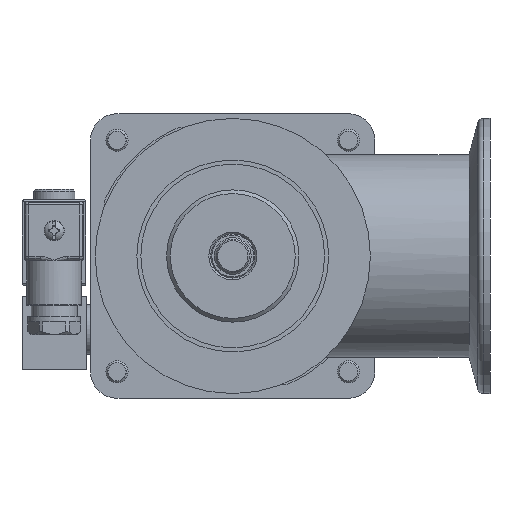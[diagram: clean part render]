
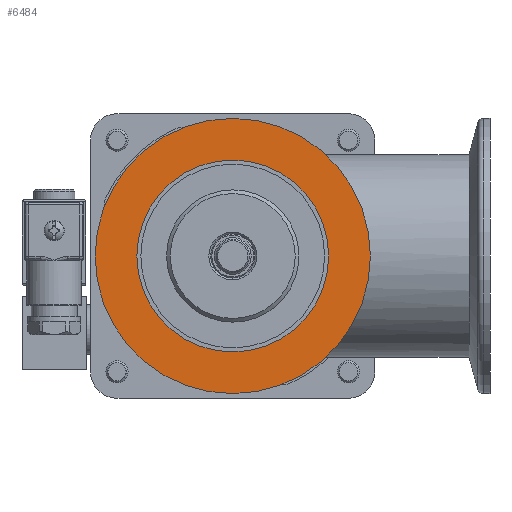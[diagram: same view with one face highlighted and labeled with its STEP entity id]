
A CAD part, front view. The second image highlights one B-rep face of the part: STEP entity #6484.
In plain terms, the highlighted planar face has unit normal (0, -1, 0) as drawn and (-1, 0, 0) by its records, which use the part's own axes.
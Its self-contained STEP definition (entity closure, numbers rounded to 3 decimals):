
#6033=PLANE('',#15791);
#6484=ADVANCED_FACE('',(#7536,#7537),#6033,.T.);
#7536=FACE_BOUND('',#8039,.T.);
#7537=FACE_BOUND('',#8040,.T.);
#8039=EDGE_LOOP('',(#9060));
#8040=EDGE_LOOP('',(#9061));
#9060=ORIENTED_EDGE('',*,*,#13603,.T.);
#9061=ORIENTED_EDGE('',*,*,#13602,.F.);
#12418=VERTEX_POINT('',#20628);
#12419=VERTEX_POINT('',#20631);
#13602=EDGE_CURVE('',#12418,#12418,#15282,.T.);
#13603=EDGE_CURVE('',#12419,#12419,#15283,.T.);
#15282=CIRCLE('',#15788,26.1);
#15283=CIRCLE('',#15790,37.452);
#15788=AXIS2_PLACEMENT_3D('',#20627,#17050,#17051);
#15790=AXIS2_PLACEMENT_3D('',#20630,#17054,#17055);
#15791=AXIS2_PLACEMENT_3D('',#20632,#17056,#17057);
#17050=DIRECTION('',(-1.,0.,0.));
#17051=DIRECTION('',(0.,0.,1.));
#17054=DIRECTION('',(-1.,0.,0.));
#17055=DIRECTION('',(0.,0.,1.));
#17056=DIRECTION('',(-1.,0.,0.));
#17057=DIRECTION('',(0.,0.,1.));
#20627=CARTESIAN_POINT('',(0.,0.,0.));
#20628=CARTESIAN_POINT('',(0.,0.,26.1));
#20630=CARTESIAN_POINT('',(0.,0.,0.));
#20631=CARTESIAN_POINT('',(0.,0.,37.452));
#20632=CARTESIAN_POINT('',(0.,26.1,0.));
